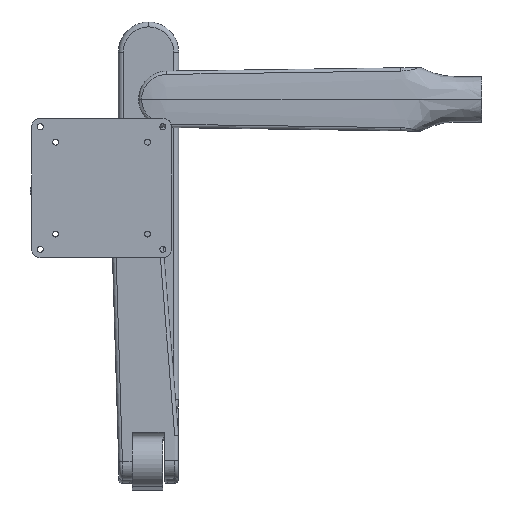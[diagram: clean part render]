
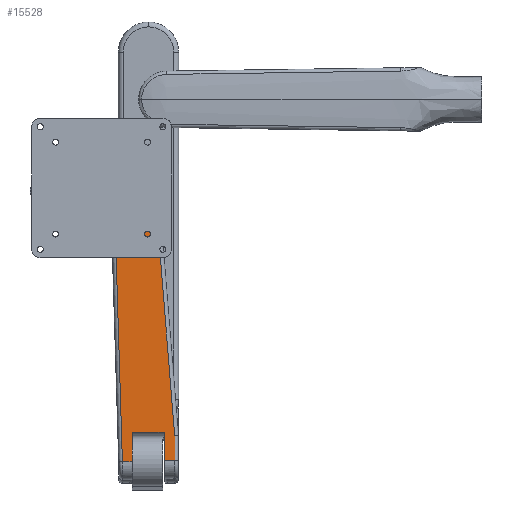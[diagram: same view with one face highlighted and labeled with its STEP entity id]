
A CAD part, left-side view. The second image highlights one B-rep face of the part: STEP entity #15528.
In plain terms, the highlighted planar face has unit normal (-1, 0.001, 0).
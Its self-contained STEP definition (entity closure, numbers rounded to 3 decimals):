
#138 = VECTOR ( 'NONE', #18200, 1000. ) ;
#527 = VECTOR ( 'NONE', #4082, 1000. ) ;
#1216 = EDGE_CURVE ( 'NONE', #8421, #8450, #13336, .T. ) ;
#1235 = EDGE_CURVE ( 'NONE', #8955, #12660, #8916, .T. ) ;
#1368 = EDGE_CURVE ( 'NONE', #18580, #18716, #5909, .T. ) ;
#1497 = ORIENTED_EDGE ( 'NONE', *, *, #5105, .T. ) ;
#1658 = CARTESIAN_POINT ( 'NONE',  ( -46.352, 276.541, -271.778 ) ) ;
#2005 = CARTESIAN_POINT ( 'NONE',  ( -46.36, 259.21, -271.773 ) ) ;
#2236 = VERTEX_POINT ( 'NONE', #9973 ) ;
#2557 = VECTOR ( 'NONE', #6268, 1000. ) ;
#3112 = CARTESIAN_POINT ( 'NONE',  ( -46.252, 294.974, -60.562 ) ) ;
#3522 = CARTESIAN_POINT ( 'NONE',  ( -46.254, 300.075, -72.059 ) ) ;
#3655 = CARTESIAN_POINT ( 'NONE',  ( -46.376, 246.188, -294.345 ) ) ;
#3704 = DIRECTION ( 'NONE',  ( 0., 0.08, 0.997 ) ) ;
#3746 = LINE ( 'NONE', #7644, #15673 ) ;
#4082 = DIRECTION ( 'NONE',  ( 0., 1., -0.03 ) ) ;
#4164 = CARTESIAN_POINT ( 'NONE',  ( -46.271, 272.999, -81.59 ) ) ;
#4284 = CARTESIAN_POINT ( 'NONE',  ( -46.265, 293.502, -88.782 ) ) ;
#4354 = EDGE_CURVE ( 'NONE', #15935, #20576, #23229, .T. ) ;
#4477 = LINE ( 'NONE', #15606, #15739 ) ;
#4485 = EDGE_CURVE ( 'NONE', #2236, #7026, #10852, .T. ) ;
#4537 = LINE ( 'NONE', #15414, #7110 ) ;
#4650 = ORIENTED_EDGE ( 'NONE', *, *, #14553, .F. ) ;
#4962 = CARTESIAN_POINT ( 'NONE',  ( -46.269, 266.944, -71.053 ) ) ;
#5105 = EDGE_CURVE ( 'NONE', #16551, #16405, #9546, .T. ) ;
#5754 = CARTESIAN_POINT ( 'NONE',  ( -46.275, 252.984, -70.628 ) ) ;
#5854 = EDGE_CURVE ( 'NONE', #2236, #8955, #4537, .T. ) ;
#5870 = DIRECTION ( 'NONE',  ( 0., 1., -0.03 ) ) ;
#5890 = CARTESIAN_POINT ( 'NONE',  ( -46.269, 288.964, -92.87 ) ) ;
#5909 = LINE ( 'NONE', #12858, #11318 ) ;
#6181 = ORIENTED_EDGE ( 'NONE', *, *, #5854, .T. ) ;
#6268 = DIRECTION ( 'NONE',  ( 0., 0.053, 0.999 ) ) ;
#6563 = B_SPLINE_CURVE_WITH_KNOTS ( 'NONE', 3,
 ( #15835, #23343, #8225, #19803 ),
 .UNSPECIFIED., .F., .F.,
 ( 4, 4 ),
 ( 0., 0. ),
 .UNSPECIFIED. ) ;
#7026 = VERTEX_POINT ( 'NONE', #19184 ) ;
#7110 = VECTOR ( 'NONE', #17590, 1000. ) ;
#7427 = CARTESIAN_POINT ( 'NONE',  ( -46.266, 273.543, -71.253 ) ) ;
#7644 = CARTESIAN_POINT ( 'NONE',  ( -46.351, 259.21, -250.172 ) ) ;
#7796 = CARTESIAN_POINT ( 'NONE',  ( -46.348, 285.21, -271.78 ) ) ;
#7804 = EDGE_CURVE ( 'NONE', #8421, #13897, #6563, .T. ) ;
#8039 = PLANE ( 'NONE',  #18812 ) ;
#8166 = ORIENTED_EDGE ( 'NONE', *, *, #1368, .T. ) ;
#8225 = CARTESIAN_POINT ( 'NONE',  ( -46.374, 250.631, -294.48 ) ) ;
#8421 = VERTEX_POINT ( 'NONE', #15158 ) ;
#8450 = VERTEX_POINT ( 'NONE', #22557 ) ;
#8916 =( BOUNDED_CURVE ( )  B_SPLINE_CURVE ( 3, ( #20388, #1658, #14710, #2005 ),
 .UNSPECIFIED., .F., .F. ) 
 B_SPLINE_CURVE_WITH_KNOTS ( ( 4, 4 ),
 ( 2.098, 2.098 ),
 .UNSPECIFIED. ) 
 CURVE ( )  GEOMETRIC_REPRESENTATION_ITEM ( )  RATIONAL_B_SPLINE_CURVE ( ( 1., 1., 1., 1. ) ) 
 REPRESENTATION_ITEM ( '' )  );
#8955 = VERTEX_POINT ( 'NONE', #7796 ) ;
#9363 = ORIENTED_EDGE ( 'NONE', *, *, #11201, .T. ) ;
#9540 = ORIENTED_EDGE ( 'NONE', *, *, #18130, .F. ) ;
#9546 = LINE ( 'NONE', #13347, #527 ) ;
#9620 = LINE ( 'NONE', #5754, #17067 ) ;
#9721 = DIRECTION ( 'NONE',  ( -1., 0., 0. ) ) ;
#9908 = LINE ( 'NONE', #20763, #2557 ) ;
#9973 = CARTESIAN_POINT ( 'NONE',  ( -46.359, 285.21, -295.531 ) ) ;
#10047 = DIRECTION ( 'NONE',  ( 0., -0.03, -1. ) ) ;
#10242 = EDGE_LOOP ( 'NONE', ( #13377, #14462, #9363, #8166, #16073, #21211, #22510, #9540, #1497, #10995, #18136, #6181, #12110, #4650 ) ) ;
#10852 = LINE ( 'NONE', #3655, #138 ) ;
#10995 = ORIENTED_EDGE ( 'NONE', *, *, #12562, .T. ) ;
#11201 = EDGE_CURVE ( 'NONE', #13897, #18580, #4477, .T. ) ;
#11318 = VECTOR ( 'NONE', #3704, 1000. ) ;
#12110 = ORIENTED_EDGE ( 'NONE', *, *, #1235, .T. ) ;
#12111 = VECTOR ( 'NONE', #16907, 1000. ) ;
#12562 = EDGE_CURVE ( 'NONE', #16405, #7026, #13858, .T. ) ;
#12660 = VERTEX_POINT ( 'NONE', #17293 ) ;
#12858 = CARTESIAN_POINT ( 'NONE',  ( -46.375, 248.99, -294.57 ) ) ;
#13336 = LINE ( 'NONE', #20265, #12111 ) ;
#13347 = CARTESIAN_POINT ( 'NONE',  ( -46.275, 252.984, -70.628 ) ) ;
#13377 = ORIENTED_EDGE ( 'NONE', *, *, #1216, .F. ) ;
#13411 = CARTESIAN_POINT ( 'NONE',  ( -46.376, 246.188, -294.345 ) ) ;
#13442 = CARTESIAN_POINT ( 'NONE',  ( -46.262, 293.82, -82.681 ) ) ;
#13858 = LINE ( 'NONE', #22868, #18814 ) ;
#13897 = VERTEX_POINT ( 'NONE', #16487 ) ;
#14462 = ORIENTED_EDGE ( 'NONE', *, *, #7804, .T. ) ;
#14553 = EDGE_CURVE ( 'NONE', #8450, #12660, #3746, .T. ) ;
#14710 = CARTESIAN_POINT ( 'NONE',  ( -46.356, 267.875, -271.776 ) ) ;
#15158 = CARTESIAN_POINT ( 'NONE',  ( -46.374, 250.631, -294.48 ) ) ;
#15380 = DIRECTION ( 'NONE',  ( 0., 0.052, 0.999 ) ) ;
#15414 = CARTESIAN_POINT ( 'NONE',  ( -46.339, 285.21, -250.172 ) ) ;
#15528 = ADVANCED_FACE ( 'NONE', ( #19019 ), #8039, .T. ) ;
#15606 = CARTESIAN_POINT ( 'NONE',  ( -46.374, 250.631, -294.345 ) ) ;
#15673 = VECTOR ( 'NONE', #20074, 1000. ) ;
#15739 = VECTOR ( 'NONE', #23003, 1000. ) ;
#15835 = CARTESIAN_POINT ( 'NONE',  ( -46.374, 250.631, -294.48 ) ) ;
#15935 = VERTEX_POINT ( 'NONE', #22204 ) ;
#16073 = ORIENTED_EDGE ( 'NONE', *, *, #21428, .T. ) ;
#16405 = VERTEX_POINT ( 'NONE', #3522 ) ;
#16487 = CARTESIAN_POINT ( 'NONE',  ( -46.374, 250.631, -294.48 ) ) ;
#16551 = VERTEX_POINT ( 'NONE', #21770 ) ;
#16907 = DIRECTION ( 'NONE',  ( 0., 1., -0.03 ) ) ;
#17012 = VECTOR ( 'NONE', #21233, 1000. ) ;
#17067 = VECTOR ( 'NONE', #5870, 1000. ) ;
#17130 = CARTESIAN_POINT ( 'NONE',  ( -46.274, 272.677, -87.691 ) ) ;
#17293 = CARTESIAN_POINT ( 'NONE',  ( -46.36, 259.21, -271.773 ) ) ;
#17485 = CARTESIAN_POINT ( 'NONE',  ( -46.274, 276.764, -92.231 ) ) ;
#17590 = DIRECTION ( 'NONE',  ( 0., 0., 1. ) ) ;
#17831 = CARTESIAN_POINT ( 'NONE',  ( -46.271, 272.999, -81.59 ) ) ;
#18130 = EDGE_CURVE ( 'NONE', #16551, #15935, #19777, .T. ) ;
#18136 = ORIENTED_EDGE ( 'NONE', *, *, #4485, .F. ) ;
#18200 = DIRECTION ( 'NONE',  ( 0., 1., -0.03 ) ) ;
#18580 = VERTEX_POINT ( 'NONE', #20544 ) ;
#18716 = VERTEX_POINT ( 'NONE', #4962 ) ;
#18812 = AXIS2_PLACEMENT_3D ( 'NONE', #13411, #9721, #15380 ) ;
#18814 = VECTOR ( 'NONE', #10047, 1000. ) ;
#19019 = FACE_OUTER_BOUND ( 'NONE', #10242, .T. ) ;
#19184 = CARTESIAN_POINT ( 'NONE',  ( -46.355, 293.279, -295.776 ) ) ;
#19289 = CARTESIAN_POINT ( 'NONE',  ( -46.271, 282.864, -92.551 ) ) ;
#19777 = LINE ( 'NONE', #3112, #17012 ) ;
#19803 = CARTESIAN_POINT ( 'NONE',  ( -46.374, 250.631, -294.48 ) ) ;
#20074 = DIRECTION ( 'NONE',  ( 0., 0., 1. ) ) ;
#20094 = EDGE_CURVE ( 'NONE', #20576, #21329, #9908, .T. ) ;
#20265 = CARTESIAN_POINT ( 'NONE',  ( -46.376, 246.188, -294.345 ) ) ;
#20388 = CARTESIAN_POINT ( 'NONE',  ( -46.348, 285.21, -271.78 ) ) ;
#20544 = CARTESIAN_POINT ( 'NONE',  ( -46.365, 250.632, -274.146 ) ) ;
#20576 = VERTEX_POINT ( 'NONE', #17831 ) ;
#20763 = CARTESIAN_POINT ( 'NONE',  ( -46.271, 273.007, -81.439 ) ) ;
#21211 = ORIENTED_EDGE ( 'NONE', *, *, #20094, .F. ) ;
#21233 = DIRECTION ( 'NONE',  ( 0., -0.052, -0.999 ) ) ;
#21329 = VERTEX_POINT ( 'NONE', #7427 ) ;
#21428 = EDGE_CURVE ( 'NONE', #18716, #21329, #9620, .T. ) ;
#21770 = CARTESIAN_POINT ( 'NONE',  ( -46.257, 294.383, -71.886 ) ) ;
#22204 = CARTESIAN_POINT ( 'NONE',  ( -46.262, 293.82, -82.681 ) ) ;
#22510 = ORIENTED_EDGE ( 'NONE', *, *, #4354, .F. ) ;
#22557 = CARTESIAN_POINT ( 'NONE',  ( -46.37, 259.21, -294.741 ) ) ;
#22868 = CARTESIAN_POINT ( 'NONE',  ( -46.355, 293.279, -295.776 ) ) ;
#23003 = DIRECTION ( 'NONE',  ( 0., 0., 1. ) ) ;
#23229 =( BOUNDED_CURVE ( )  B_SPLINE_CURVE ( 3, ( #13442, #4284, #5890, #19289, #17485, #17130, #4164 ),
 .UNSPECIFIED., .F., .F. ) 
 B_SPLINE_CURVE_WITH_KNOTS ( ( 4, 3, 4 ),
 ( 4.734, 6.305, 7.876 ),
 .UNSPECIFIED. ) 
 CURVE ( )  GEOMETRIC_REPRESENTATION_ITEM ( )  RATIONAL_B_SPLINE_CURVE ( ( 1., 0.805, 0.805, 1., 0.805, 0.805, 1. ) ) 
 REPRESENTATION_ITEM ( '' )  );
#23343 = CARTESIAN_POINT ( 'NONE',  ( -46.374, 250.631, -294.48 ) ) ;
